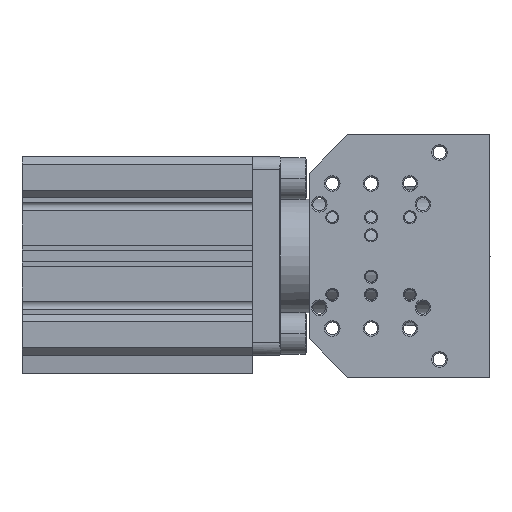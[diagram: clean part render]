
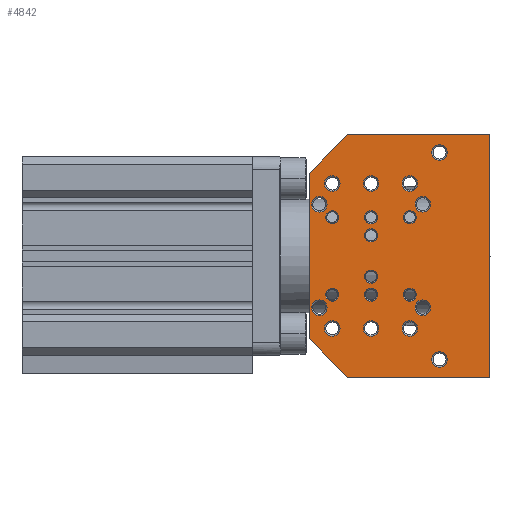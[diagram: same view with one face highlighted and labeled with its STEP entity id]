
A CAD part, left-side view. The second image highlights one B-rep face of the part: STEP entity #4842.
In plain terms, the highlighted planar face has unit normal (-1, 0, 0).
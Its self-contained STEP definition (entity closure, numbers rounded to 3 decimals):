
#1783=LINE('',#30449,#2937);
#1794=LINE('',#30552,#2948);
#1795=LINE('',#30555,#2949);
#1796=LINE('',#30556,#2950);
#1797=LINE('',#30558,#2951);
#1798=LINE('',#30560,#2952);
#2937=VECTOR('',#22174,1.);
#2948=VECTOR('',#22269,1.);
#2949=VECTOR('',#22270,1.);
#2950=VECTOR('',#22271,1.);
#2951=VECTOR('',#22272,1.);
#2952=VECTOR('',#22273,1.);
#3408=PLANE('',#17780);
#3725=FACE_BOUND('',#6828,.T.);
#3726=FACE_BOUND('',#6829,.T.);
#3727=FACE_BOUND('',#6830,.T.);
#3728=FACE_BOUND('',#6831,.T.);
#3729=FACE_BOUND('',#6832,.T.);
#3730=FACE_BOUND('',#6833,.T.);
#3731=FACE_BOUND('',#6834,.T.);
#3732=FACE_BOUND('',#6835,.T.);
#3733=FACE_BOUND('',#6836,.T.);
#3734=FACE_BOUND('',#6837,.T.);
#3735=FACE_BOUND('',#6838,.T.);
#3736=FACE_BOUND('',#6839,.T.);
#3737=FACE_BOUND('',#6840,.T.);
#3738=FACE_BOUND('',#6841,.T.);
#3739=FACE_BOUND('',#6842,.T.);
#3740=FACE_BOUND('',#6843,.T.);
#3741=FACE_BOUND('',#6844,.T.);
#3742=FACE_BOUND('',#6845,.T.);
#3743=FACE_BOUND('',#6846,.T.);
#3744=FACE_BOUND('',#6847,.T.);
#3745=FACE_BOUND('',#6848,.T.);
#4842=ADVANCED_FACE('',(#3725,#3726,#3727,#3728,#3729,#3730,#3731,#3732,
#3733,#3734,#3735,#3736,#3737,#3738,#3739,#3740,#3741,#3742,#3743,#3744,
#3745),#3408,.T.);
#6828=EDGE_LOOP('',(#11302));
#6829=EDGE_LOOP('',(#11303));
#6830=EDGE_LOOP('',(#11304));
#6831=EDGE_LOOP('',(#11305));
#6832=EDGE_LOOP('',(#11306));
#6833=EDGE_LOOP('',(#11307));
#6834=EDGE_LOOP('',(#11308));
#6835=EDGE_LOOP('',(#11309));
#6836=EDGE_LOOP('',(#11310));
#6837=EDGE_LOOP('',(#11311));
#6838=EDGE_LOOP('',(#11312));
#6839=EDGE_LOOP('',(#11313));
#6840=EDGE_LOOP('',(#11314));
#6841=EDGE_LOOP('',(#11315));
#6842=EDGE_LOOP('',(#11316));
#6843=EDGE_LOOP('',(#11317));
#6844=EDGE_LOOP('',(#11318));
#6845=EDGE_LOOP('',(#11319));
#6846=EDGE_LOOP('',(#11320));
#6847=EDGE_LOOP('',(#11321));
#6848=EDGE_LOOP('',(#11322,#11323,#11324,#11325,#11326,#11327));
#11302=ORIENTED_EDGE('',*,*,#15196,.T.);
#11303=ORIENTED_EDGE('',*,*,#15197,.T.);
#11304=ORIENTED_EDGE('',*,*,#15198,.T.);
#11305=ORIENTED_EDGE('',*,*,#15199,.T.);
#11306=ORIENTED_EDGE('',*,*,#15200,.T.);
#11307=ORIENTED_EDGE('',*,*,#15201,.T.);
#11308=ORIENTED_EDGE('',*,*,#15202,.T.);
#11309=ORIENTED_EDGE('',*,*,#15203,.T.);
#11310=ORIENTED_EDGE('',*,*,#15204,.T.);
#11311=ORIENTED_EDGE('',*,*,#15205,.T.);
#11312=ORIENTED_EDGE('',*,*,#15206,.T.);
#11313=ORIENTED_EDGE('',*,*,#15207,.T.);
#11314=ORIENTED_EDGE('',*,*,#15208,.T.);
#11315=ORIENTED_EDGE('',*,*,#15209,.T.);
#11316=ORIENTED_EDGE('',*,*,#15210,.T.);
#11317=ORIENTED_EDGE('',*,*,#15211,.T.);
#11318=ORIENTED_EDGE('',*,*,#15212,.T.);
#11319=ORIENTED_EDGE('',*,*,#15213,.T.);
#11320=ORIENTED_EDGE('',*,*,#15214,.T.);
#11321=ORIENTED_EDGE('',*,*,#15215,.T.);
#11322=ORIENTED_EDGE('',*,*,#15216,.T.);
#11323=ORIENTED_EDGE('',*,*,#15217,.T.);
#11324=ORIENTED_EDGE('',*,*,#15165,.T.);
#11325=ORIENTED_EDGE('',*,*,#15218,.T.);
#11326=ORIENTED_EDGE('',*,*,#15219,.F.);
#11327=ORIENTED_EDGE('',*,*,#15220,.T.);
#12993=VERTEX_POINT('',#30450);
#12994=VERTEX_POINT('',#30451);
#13023=VERTEX_POINT('',#30513);
#13024=VERTEX_POINT('',#30515);
#13025=VERTEX_POINT('',#30517);
#13026=VERTEX_POINT('',#30519);
#13027=VERTEX_POINT('',#30521);
#13028=VERTEX_POINT('',#30523);
#13029=VERTEX_POINT('',#30525);
#13030=VERTEX_POINT('',#30527);
#13031=VERTEX_POINT('',#30529);
#13032=VERTEX_POINT('',#30531);
#13033=VERTEX_POINT('',#30533);
#13034=VERTEX_POINT('',#30535);
#13035=VERTEX_POINT('',#30537);
#13036=VERTEX_POINT('',#30539);
#13037=VERTEX_POINT('',#30541);
#13038=VERTEX_POINT('',#30543);
#13039=VERTEX_POINT('',#30545);
#13040=VERTEX_POINT('',#30547);
#13041=VERTEX_POINT('',#30549);
#13042=VERTEX_POINT('',#30551);
#13043=VERTEX_POINT('',#30553);
#13044=VERTEX_POINT('',#30554);
#13045=VERTEX_POINT('',#30557);
#13046=VERTEX_POINT('',#30559);
#15165=EDGE_CURVE('',#12993,#12994,#1783,.T.);
#15196=EDGE_CURVE('',#13023,#13023,#16068,.T.);
#15197=EDGE_CURVE('',#13024,#13024,#16069,.T.);
#15198=EDGE_CURVE('',#13025,#13025,#16070,.T.);
#15199=EDGE_CURVE('',#13026,#13026,#16071,.T.);
#15200=EDGE_CURVE('',#13027,#13027,#16072,.T.);
#15201=EDGE_CURVE('',#13028,#13028,#16073,.T.);
#15202=EDGE_CURVE('',#13029,#13029,#16074,.T.);
#15203=EDGE_CURVE('',#13030,#13030,#16075,.T.);
#15204=EDGE_CURVE('',#13031,#13031,#16076,.T.);
#15205=EDGE_CURVE('',#13032,#13032,#16077,.T.);
#15206=EDGE_CURVE('',#13033,#13033,#16078,.T.);
#15207=EDGE_CURVE('',#13034,#13034,#16079,.T.);
#15208=EDGE_CURVE('',#13035,#13035,#16080,.T.);
#15209=EDGE_CURVE('',#13036,#13036,#16081,.T.);
#15210=EDGE_CURVE('',#13037,#13037,#16082,.T.);
#15211=EDGE_CURVE('',#13038,#13038,#16083,.T.);
#15212=EDGE_CURVE('',#13039,#13039,#16084,.T.);
#15213=EDGE_CURVE('',#13040,#13040,#16085,.T.);
#15214=EDGE_CURVE('',#13041,#13041,#16086,.T.);
#15215=EDGE_CURVE('',#13042,#13042,#16087,.T.);
#15216=EDGE_CURVE('',#13043,#13044,#1794,.T.);
#15217=EDGE_CURVE('',#13044,#12993,#1795,.T.);
#15218=EDGE_CURVE('',#12994,#13045,#1796,.T.);
#15219=EDGE_CURVE('',#13046,#13045,#1797,.T.);
#15220=EDGE_CURVE('',#13046,#13043,#1798,.T.);
#16068=CIRCLE('',#17760,3.);
#16069=CIRCLE('',#17761,3.);
#16070=CIRCLE('',#17762,3.);
#16071=CIRCLE('',#17763,3.);
#16072=CIRCLE('',#17764,3.);
#16073=CIRCLE('',#17765,3.);
#16074=CIRCLE('',#17766,3.);
#16075=CIRCLE('',#17767,3.);
#16076=CIRCLE('',#17768,3.);
#16077=CIRCLE('',#17769,3.);
#16078=CIRCLE('',#17770,3.);
#16079=CIRCLE('',#17771,3.);
#16080=CIRCLE('',#17772,2.5);
#16081=CIRCLE('',#17773,2.5);
#16082=CIRCLE('',#17774,2.5);
#16083=CIRCLE('',#17775,2.5);
#16084=CIRCLE('',#17776,2.5);
#16085=CIRCLE('',#17777,2.5);
#16086=CIRCLE('',#17778,2.5);
#16087=CIRCLE('',#17779,2.5);
#17760=AXIS2_PLACEMENT_3D('',#30512,#22229,#22230);
#17761=AXIS2_PLACEMENT_3D('',#30514,#22231,#22232);
#17762=AXIS2_PLACEMENT_3D('',#30516,#22233,#22234);
#17763=AXIS2_PLACEMENT_3D('',#30518,#22235,#22236);
#17764=AXIS2_PLACEMENT_3D('',#30520,#22237,#22238);
#17765=AXIS2_PLACEMENT_3D('',#30522,#22239,#22240);
#17766=AXIS2_PLACEMENT_3D('',#30524,#22241,#22242);
#17767=AXIS2_PLACEMENT_3D('',#30526,#22243,#22244);
#17768=AXIS2_PLACEMENT_3D('',#30528,#22245,#22246);
#17769=AXIS2_PLACEMENT_3D('',#30530,#22247,#22248);
#17770=AXIS2_PLACEMENT_3D('',#30532,#22249,#22250);
#17771=AXIS2_PLACEMENT_3D('',#30534,#22251,#22252);
#17772=AXIS2_PLACEMENT_3D('',#30536,#22253,#22254);
#17773=AXIS2_PLACEMENT_3D('',#30538,#22255,#22256);
#17774=AXIS2_PLACEMENT_3D('',#30540,#22257,#22258);
#17775=AXIS2_PLACEMENT_3D('',#30542,#22259,#22260);
#17776=AXIS2_PLACEMENT_3D('',#30544,#22261,#22262);
#17777=AXIS2_PLACEMENT_3D('',#30546,#22263,#22264);
#17778=AXIS2_PLACEMENT_3D('',#30548,#22265,#22266);
#17779=AXIS2_PLACEMENT_3D('',#30550,#22267,#22268);
#17780=AXIS2_PLACEMENT_3D('',#30561,#22274,#22275);
#22174=DIRECTION('',(0.,-1.,0.));
#22229=DIRECTION('',(1.,0.,0.));
#22230=DIRECTION('',(0.,1.,0.));
#22231=DIRECTION('',(1.,0.,0.));
#22232=DIRECTION('',(0.,-1.,0.));
#22233=DIRECTION('',(1.,0.,0.));
#22234=DIRECTION('',(0.,1.,0.));
#22235=DIRECTION('',(1.,0.,0.));
#22236=DIRECTION('',(0.,1.,0.));
#22237=DIRECTION('',(1.,0.,0.));
#22238=DIRECTION('',(0.,-1.,0.));
#22239=DIRECTION('',(1.,0.,0.));
#22240=DIRECTION('',(0.,1.,0.));
#22241=DIRECTION('',(1.,0.,0.));
#22242=DIRECTION('',(0.,1.,0.));
#22243=DIRECTION('',(1.,0.,0.));
#22244=DIRECTION('',(0.,-1.,0.));
#22245=DIRECTION('',(1.,0.,0.));
#22246=DIRECTION('',(0.,1.,0.));
#22247=DIRECTION('',(1.,0.,0.));
#22248=DIRECTION('',(0.,-1.,0.));
#22249=DIRECTION('',(1.,0.,0.));
#22250=DIRECTION('',(0.,-1.,0.));
#22251=DIRECTION('',(1.,0.,0.));
#22252=DIRECTION('',(0.,-1.,0.));
#22253=DIRECTION('',(1.,0.,0.));
#22254=DIRECTION('',(0.,1.,0.));
#22255=DIRECTION('',(1.,0.,0.));
#22256=DIRECTION('',(0.,1.,0.));
#22257=DIRECTION('',(1.,0.,0.));
#22258=DIRECTION('',(0.,1.,0.));
#22259=DIRECTION('',(1.,0.,0.));
#22260=DIRECTION('',(0.,1.,0.));
#22261=DIRECTION('',(1.,0.,0.));
#22262=DIRECTION('',(0.,1.,0.));
#22263=DIRECTION('',(1.,0.,0.));
#22264=DIRECTION('',(0.,1.,0.));
#22265=DIRECTION('',(1.,0.,0.));
#22266=DIRECTION('',(0.,1.,0.));
#22267=DIRECTION('',(1.,0.,0.));
#22268=DIRECTION('',(0.,1.,0.));
#22269=DIRECTION('',(0.,0.,-1.));
#22270=DIRECTION('',(0.,-0.707,-0.707));
#22271=DIRECTION('',(0.,0.,1.));
#22272=DIRECTION('',(0.,-1.,0.));
#22273=DIRECTION('',(0.,0.707,-0.707));
#22274=DIRECTION('',(-1.,0.,0.));
#22275=DIRECTION('',(0.,1.,0.));
#30449=CARTESIAN_POINT('',(197.5,-7.,-235.5));
#30450=CARTESIAN_POINT('',(197.5,-37.,-235.5));
#30451=CARTESIAN_POINT('',(197.5,-92.,-235.5));
#30512=CARTESIAN_POINT('',(197.5,-26.,-208.5));
#30513=CARTESIAN_POINT('',(197.5,-23.,-208.5));
#30514=CARTESIAN_POINT('',(197.5,-31.,-216.5));
#30515=CARTESIAN_POINT('',(197.5,-34.,-216.5));
#30516=CARTESIAN_POINT('',(197.5,-46.,-216.5));
#30517=CARTESIAN_POINT('',(197.5,-43.,-216.5));
#30518=CARTESIAN_POINT('',(197.5,-61.,-216.5));
#30519=CARTESIAN_POINT('',(197.5,-58.,-216.5));
#30520=CARTESIAN_POINT('',(197.5,-72.5,-228.5));
#30521=CARTESIAN_POINT('',(197.5,-75.5,-228.5));
#30522=CARTESIAN_POINT('',(197.5,-66.,-208.5));
#30523=CARTESIAN_POINT('',(197.5,-63.,-208.5));
#30524=CARTESIAN_POINT('',(197.5,-66.,-168.5));
#30525=CARTESIAN_POINT('',(197.5,-63.,-168.5));
#30526=CARTESIAN_POINT('',(197.5,-61.,-160.5));
#30527=CARTESIAN_POINT('',(197.5,-64.,-160.5));
#30528=CARTESIAN_POINT('',(197.5,-72.5,-148.5));
#30529=CARTESIAN_POINT('',(197.5,-69.5,-148.5));
#30530=CARTESIAN_POINT('',(197.5,-46.,-160.5));
#30531=CARTESIAN_POINT('',(197.5,-49.,-160.5));
#30532=CARTESIAN_POINT('',(197.5,-31.,-160.5));
#30533=CARTESIAN_POINT('',(197.5,-34.,-160.5));
#30534=CARTESIAN_POINT('',(197.5,-26.,-168.5));
#30535=CARTESIAN_POINT('',(197.5,-29.,-168.5));
#30536=CARTESIAN_POINT('',(197.5,-61.,-203.5));
#30537=CARTESIAN_POINT('',(197.5,-58.5,-203.5));
#30538=CARTESIAN_POINT('',(197.5,-31.,-203.5));
#30539=CARTESIAN_POINT('',(197.5,-28.5,-203.5));
#30540=CARTESIAN_POINT('',(197.5,-46.,-203.5));
#30541=CARTESIAN_POINT('',(197.5,-43.5,-203.5));
#30542=CARTESIAN_POINT('',(197.5,-46.,-196.5));
#30543=CARTESIAN_POINT('',(197.5,-43.5,-196.5));
#30544=CARTESIAN_POINT('',(197.5,-31.,-173.5));
#30545=CARTESIAN_POINT('',(197.5,-28.5,-173.5));
#30546=CARTESIAN_POINT('',(197.5,-46.,-173.5));
#30547=CARTESIAN_POINT('',(197.5,-43.5,-173.5));
#30548=CARTESIAN_POINT('',(197.5,-46.,-180.5));
#30549=CARTESIAN_POINT('',(197.5,-43.5,-180.5));
#30550=CARTESIAN_POINT('',(197.5,-61.,-173.5));
#30551=CARTESIAN_POINT('',(197.5,-58.5,-173.5));
#30552=CARTESIAN_POINT('',(197.5,-22.,-235.5));
#30553=CARTESIAN_POINT('',(197.5,-22.,-156.5));
#30554=CARTESIAN_POINT('',(197.5,-22.,-220.5));
#30555=CARTESIAN_POINT('',(197.5,-19.5,-218.));
#30556=CARTESIAN_POINT('',(197.5,-92.,-235.5));
#30557=CARTESIAN_POINT('',(197.5,-92.,-141.5));
#30558=CARTESIAN_POINT('',(197.5,-7.,-141.5));
#30559=CARTESIAN_POINT('',(197.5,-37.,-141.5));
#30560=CARTESIAN_POINT('',(197.5,27.5,-206.));
#30561=CARTESIAN_POINT('',(197.5,-2.,-235.5));
